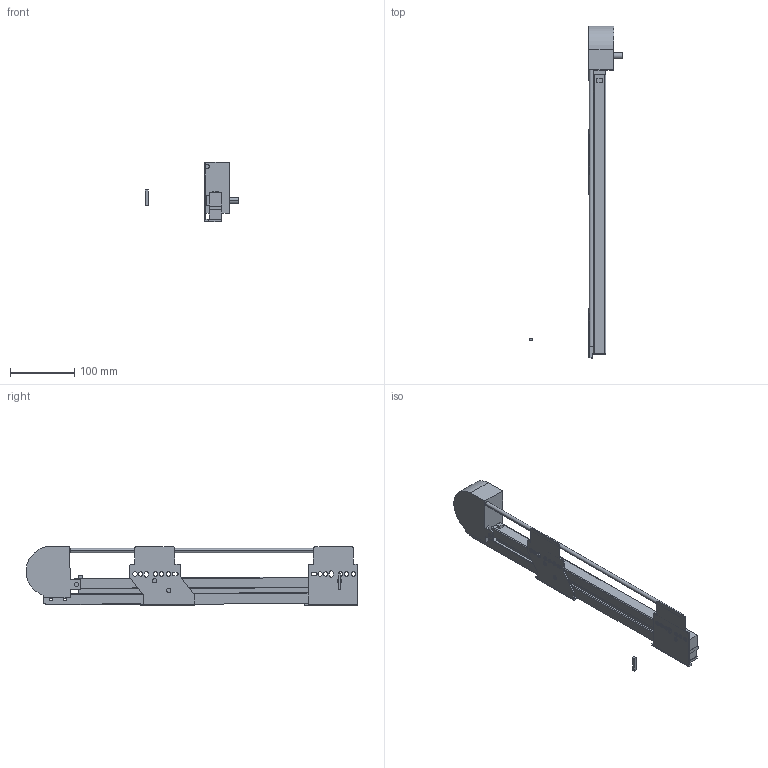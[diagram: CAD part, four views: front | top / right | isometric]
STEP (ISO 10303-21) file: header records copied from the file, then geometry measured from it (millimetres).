
FILE_DESCRIPTION (( 'STEP AP214' ), '1' );
FILE_NAME ('_IMOS_NOVA-Pro_Sensotronic_KS_P907_LI_NL-450_EB29mm.step', '2010-07-23T08:20:07', ( 'grass' ), ( '' ), 'SwSTEP 2.0', 'SolidWorks 2009', '' );
FILE_SCHEMA (( 'AUTOMOTIVE_DESIGN' ));
Length unit declared in the file: millimetre
Products named in the file (1): _IMOS_NOVA-Pro_Sensotronic_KS_P907_LI_NL-450_EB29mm
Bounding box: 145.8 x 516.61 x 92.68 mm (x, y, z)
Volume: 533151.1 mm3; surface area: 129204.7 mm2
Topology: 3 solids, 3 shells, 160 faces, 452 edges, 300 vertices
Faces by surface type: plane 96, cylinder 64
Entity records: 5323 total; most frequent: CARTESIAN_POINT 937, ORIENTED_EDGE 904, DIRECTION 893, EDGE_CURVE 452, LINE 317, VECTOR 317, VERTEX_POINT 300, AXIS2_PLACEMENT_3D 288
